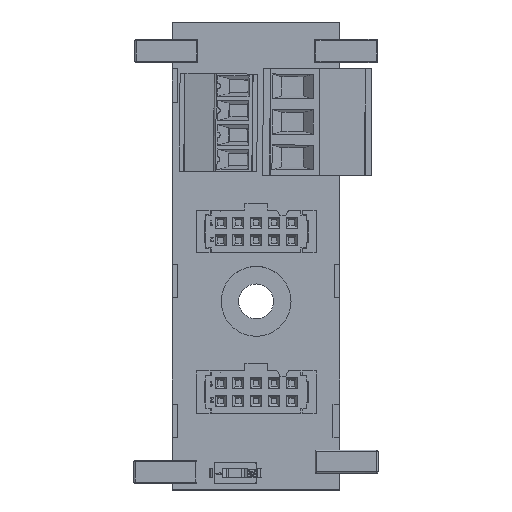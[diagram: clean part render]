
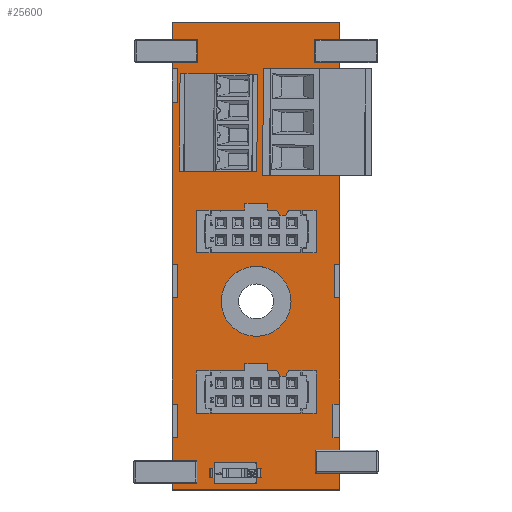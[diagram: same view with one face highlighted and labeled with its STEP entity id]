
A CAD part, top view. The second image highlights one B-rep face of the part: STEP entity #25600.
In plain terms, the highlighted planar face has unit normal (0, 0, 1).
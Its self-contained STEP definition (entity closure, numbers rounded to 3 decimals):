
#668=FACE_BOUND('',#2984,.T.);
#1506=FACE_OUTER_BOUND('',#2983,.T.);
#2983=EDGE_LOOP('',(#20065,#20066,#20067,#20068,#20069,#20070,#20071,#20072,
#20073,#20074,#20075,#20076,#20077,#20078,#20079,#20080,#20081,#20082,#20083,
#20084,#20085,#20086,#20087,#20088,#20089,#20090,#20091,#20092));
#2984=EDGE_LOOP('',(#20093,#20094));
#3766=CIRCLE('',#27207,5.);
#3767=CIRCLE('',#27208,5.);
#5855=LINE('',#38665,#9049);
#5859=LINE('',#38673,#9053);
#5863=LINE('',#38681,#9057);
#5867=LINE('',#38689,#9061);
#5883=LINE('',#38721,#9077);
#5885=LINE('',#38726,#9079);
#5886=LINE('',#38728,#9080);
#5887=LINE('',#38730,#9081);
#5888=LINE('',#38732,#9082);
#5889=LINE('',#38734,#9083);
#5890=LINE('',#38736,#9084);
#5891=LINE('',#38738,#9085);
#5892=LINE('',#38740,#9086);
#5893=LINE('',#38742,#9087);
#5894=LINE('',#38744,#9088);
#5895=LINE('',#38745,#9089);
#5896=LINE('',#38747,#9090);
#5897=LINE('',#38749,#9091);
#5898=LINE('',#38750,#9092);
#5899=LINE('',#38752,#9093);
#5900=LINE('',#38754,#9094);
#5901=LINE('',#38755,#9095);
#5902=LINE('',#38757,#9096);
#5903=LINE('',#38759,#9097);
#5904=LINE('',#38760,#9098);
#5905=LINE('',#38762,#9099);
#5906=LINE('',#38764,#9100);
#5907=LINE('',#38765,#9101);
#9049=VECTOR('',#31399,1.);
#9053=VECTOR('',#31403,1.);
#9057=VECTOR('',#31407,1.);
#9061=VECTOR('',#31411,1.);
#9077=VECTOR('',#31429,1.);
#9079=VECTOR('',#31433,1.);
#9080=VECTOR('',#31434,1.);
#9081=VECTOR('',#31435,1.);
#9082=VECTOR('',#31436,1.);
#9083=VECTOR('',#31437,1.);
#9084=VECTOR('',#31438,1.);
#9085=VECTOR('',#31439,1.);
#9086=VECTOR('',#31440,1.);
#9087=VECTOR('',#31441,1.);
#9088=VECTOR('',#31442,1.);
#9089=VECTOR('',#31443,1.);
#9090=VECTOR('',#31444,1.);
#9091=VECTOR('',#31445,1.);
#9092=VECTOR('',#31446,1.);
#9093=VECTOR('',#31447,1.);
#9094=VECTOR('',#31448,1.);
#9095=VECTOR('',#31449,1.);
#9096=VECTOR('',#31450,1.);
#9097=VECTOR('',#31451,1.);
#9098=VECTOR('',#31452,1.);
#9099=VECTOR('',#31453,1.);
#9100=VECTOR('',#31454,1.);
#9101=VECTOR('',#31455,1.);
#11635=VERTEX_POINT('',#38662);
#11636=VERTEX_POINT('',#38664);
#11639=VERTEX_POINT('',#38670);
#11640=VERTEX_POINT('',#38672);
#11643=VERTEX_POINT('',#38678);
#11644=VERTEX_POINT('',#38680);
#11647=VERTEX_POINT('',#38686);
#11648=VERTEX_POINT('',#38688);
#11663=VERTEX_POINT('',#38719);
#11664=VERTEX_POINT('',#38724);
#11665=VERTEX_POINT('',#38725);
#11666=VERTEX_POINT('',#38727);
#11667=VERTEX_POINT('',#38729);
#11668=VERTEX_POINT('',#38731);
#11669=VERTEX_POINT('',#38733);
#11670=VERTEX_POINT('',#38735);
#11671=VERTEX_POINT('',#38737);
#11672=VERTEX_POINT('',#38739);
#11673=VERTEX_POINT('',#38741);
#11674=VERTEX_POINT('',#38743);
#11675=VERTEX_POINT('',#38746);
#11676=VERTEX_POINT('',#38748);
#11677=VERTEX_POINT('',#38751);
#11678=VERTEX_POINT('',#38753);
#11679=VERTEX_POINT('',#38756);
#11680=VERTEX_POINT('',#38758);
#11681=VERTEX_POINT('',#38761);
#11682=VERTEX_POINT('',#38763);
#11683=VERTEX_POINT('',#38766);
#11684=VERTEX_POINT('',#38767);
#14618=EDGE_CURVE('',#11635,#11636,#5855,.T.);
#14622=EDGE_CURVE('',#11639,#11640,#5859,.T.);
#14626=EDGE_CURVE('',#11643,#11644,#5863,.T.);
#14630=EDGE_CURVE('',#11647,#11648,#5867,.T.);
#14646=EDGE_CURVE('',#11635,#11663,#5883,.T.);
#14648=EDGE_CURVE('',#11664,#11665,#5885,.T.);
#14649=EDGE_CURVE('',#11664,#11666,#5886,.T.);
#14650=EDGE_CURVE('',#11667,#11666,#5887,.T.);
#14651=EDGE_CURVE('',#11667,#11668,#5888,.T.);
#14652=EDGE_CURVE('',#11668,#11669,#5889,.T.);
#14653=EDGE_CURVE('',#11669,#11670,#5890,.T.);
#14654=EDGE_CURVE('',#11671,#11670,#5891,.T.);
#14655=EDGE_CURVE('',#11671,#11672,#5892,.T.);
#14656=EDGE_CURVE('',#11672,#11673,#5893,.T.);
#14657=EDGE_CURVE('',#11673,#11674,#5894,.T.);
#14658=EDGE_CURVE('',#11648,#11674,#5895,.T.);
#14659=EDGE_CURVE('',#11675,#11647,#5896,.T.);
#14660=EDGE_CURVE('',#11676,#11675,#5897,.T.);
#14661=EDGE_CURVE('',#11676,#11644,#5898,.T.);
#14662=EDGE_CURVE('',#11677,#11643,#5899,.T.);
#14663=EDGE_CURVE('',#11678,#11677,#5900,.T.);
#14664=EDGE_CURVE('',#11678,#11640,#5901,.T.);
#14665=EDGE_CURVE('',#11679,#11639,#5902,.T.);
#14666=EDGE_CURVE('',#11680,#11679,#5903,.T.);
#14667=EDGE_CURVE('',#11680,#11636,#5904,.T.);
#14668=EDGE_CURVE('',#11663,#11681,#5905,.T.);
#14669=EDGE_CURVE('',#11681,#11682,#5906,.T.);
#14670=EDGE_CURVE('',#11682,#11665,#5907,.T.);
#14671=EDGE_CURVE('',#11683,#11684,#3766,.T.);
#14672=EDGE_CURVE('',#11684,#11683,#3767,.T.);
#20065=ORIENTED_EDGE('',*,*,#14648,.F.);
#20066=ORIENTED_EDGE('',*,*,#14649,.T.);
#20067=ORIENTED_EDGE('',*,*,#14650,.F.);
#20068=ORIENTED_EDGE('',*,*,#14651,.T.);
#20069=ORIENTED_EDGE('',*,*,#14652,.T.);
#20070=ORIENTED_EDGE('',*,*,#14653,.T.);
#20071=ORIENTED_EDGE('',*,*,#14654,.F.);
#20072=ORIENTED_EDGE('',*,*,#14655,.T.);
#20073=ORIENTED_EDGE('',*,*,#14656,.T.);
#20074=ORIENTED_EDGE('',*,*,#14657,.T.);
#20075=ORIENTED_EDGE('',*,*,#14658,.F.);
#20076=ORIENTED_EDGE('',*,*,#14630,.F.);
#20077=ORIENTED_EDGE('',*,*,#14659,.F.);
#20078=ORIENTED_EDGE('',*,*,#14660,.F.);
#20079=ORIENTED_EDGE('',*,*,#14661,.T.);
#20080=ORIENTED_EDGE('',*,*,#14626,.F.);
#20081=ORIENTED_EDGE('',*,*,#14662,.F.);
#20082=ORIENTED_EDGE('',*,*,#14663,.F.);
#20083=ORIENTED_EDGE('',*,*,#14664,.T.);
#20084=ORIENTED_EDGE('',*,*,#14622,.F.);
#20085=ORIENTED_EDGE('',*,*,#14665,.F.);
#20086=ORIENTED_EDGE('',*,*,#14666,.F.);
#20087=ORIENTED_EDGE('',*,*,#14667,.T.);
#20088=ORIENTED_EDGE('',*,*,#14618,.F.);
#20089=ORIENTED_EDGE('',*,*,#14646,.T.);
#20090=ORIENTED_EDGE('',*,*,#14668,.T.);
#20091=ORIENTED_EDGE('',*,*,#14669,.T.);
#20092=ORIENTED_EDGE('',*,*,#14670,.T.);
#20093=ORIENTED_EDGE('',*,*,#14671,.F.);
#20094=ORIENTED_EDGE('',*,*,#14672,.F.);
#24453=PLANE('',#27206);
#25600=ADVANCED_FACE('',(#1506,#668),#24453,.T.);
#27206=AXIS2_PLACEMENT_3D('',#38723,#31431,#31432);
#27207=AXIS2_PLACEMENT_3D('',#38768,#31456,#31457);
#27208=AXIS2_PLACEMENT_3D('',#38769,#31458,#31459);
#31399=DIRECTION('',(0.,1.,0.));
#31403=DIRECTION('',(0.,1.,0.));
#31407=DIRECTION('',(0.,1.,0.));
#31411=DIRECTION('',(0.,1.,0.));
#31429=DIRECTION('',(1.,0.,0.));
#31431=DIRECTION('center_axis',(0.,0.,1.));
#31432=DIRECTION('ref_axis',(1.,0.,0.));
#31433=DIRECTION('',(-1.,0.,0.));
#31434=DIRECTION('',(0.,1.,0.));
#31435=DIRECTION('',(1.,0.,0.));
#31436=DIRECTION('',(0.,1.,0.));
#31437=DIRECTION('',(1.,0.,0.));
#31438=DIRECTION('',(0.,1.,0.));
#31439=DIRECTION('',(1.,0.,0.));
#31440=DIRECTION('',(0.,1.,0.));
#31441=DIRECTION('',(1.,0.,0.));
#31442=DIRECTION('',(0.,1.,0.));
#31443=DIRECTION('',(1.,0.,0.));
#31444=DIRECTION('',(-1.,0.,0.));
#31445=DIRECTION('',(0.,1.,0.));
#31446=DIRECTION('',(-1.,0.,0.));
#31447=DIRECTION('',(-1.,0.,0.));
#31448=DIRECTION('',(0.,1.,0.));
#31449=DIRECTION('',(-1.,0.,0.));
#31450=DIRECTION('',(-1.,0.,0.));
#31451=DIRECTION('',(0.,1.,0.));
#31452=DIRECTION('',(-1.,0.,0.));
#31453=DIRECTION('',(0.,1.,0.));
#31454=DIRECTION('',(-1.,0.,0.));
#31455=DIRECTION('',(0.,1.,0.));
#31456=DIRECTION('center_axis',(0.,0.,1.));
#31457=DIRECTION('ref_axis',(1.,0.,0.));
#31458=DIRECTION('center_axis',(0.,0.,1.));
#31459=DIRECTION('ref_axis',(1.,0.,0.));
#38662=CARTESIAN_POINT('',(0.,0.,5.6));
#38664=CARTESIAN_POINT('',(0.,7.5,5.6));
#38665=CARTESIAN_POINT('',(0.,0.,5.6));
#38670=CARTESIAN_POINT('',(0.,12.3,5.6));
#38672=CARTESIAN_POINT('',(0.,27.5,5.6));
#38673=CARTESIAN_POINT('',(0.,0.,5.6));
#38678=CARTESIAN_POINT('',(0.,32.3,5.6));
#38680=CARTESIAN_POINT('',(0.,55.5,5.6));
#38681=CARTESIAN_POINT('',(0.,0.,5.6));
#38686=CARTESIAN_POINT('',(0.,60.3,5.6));
#38688=CARTESIAN_POINT('',(0.,67.,5.6));
#38689=CARTESIAN_POINT('',(0.,0.,5.6));
#38719=CARTESIAN_POINT('',(24.,0.,5.6));
#38721=CARTESIAN_POINT('',(0.,0.,5.6));
#38723=CARTESIAN_POINT('Origin',(0.,0.,5.6));
#38724=CARTESIAN_POINT('',(24.,12.3,5.6));
#38725=CARTESIAN_POINT('',(23.,12.3,5.6));
#38726=CARTESIAN_POINT('',(11.5,12.3,5.6));
#38727=CARTESIAN_POINT('',(24.,27.5,5.6));
#38728=CARTESIAN_POINT('',(24.,0.,5.6));
#38729=CARTESIAN_POINT('',(23.2,27.5,5.6));
#38730=CARTESIAN_POINT('',(14.,27.5,5.6));
#38731=CARTESIAN_POINT('',(23.2,32.3,5.6));
#38732=CARTESIAN_POINT('',(23.2,13.75,5.6));
#38733=CARTESIAN_POINT('',(24.,32.3,5.6));
#38734=CARTESIAN_POINT('',(14.,32.3,5.6));
#38735=CARTESIAN_POINT('',(24.,55.5,5.6));
#38736=CARTESIAN_POINT('',(24.,0.,5.6));
#38737=CARTESIAN_POINT('',(23.2,55.5,5.6));
#38738=CARTESIAN_POINT('',(14.,55.5,5.6));
#38739=CARTESIAN_POINT('',(23.2,60.3,5.6));
#38740=CARTESIAN_POINT('',(23.2,27.75,5.6));
#38741=CARTESIAN_POINT('',(24.,60.3,5.6));
#38742=CARTESIAN_POINT('',(14.,60.3,5.6));
#38743=CARTESIAN_POINT('',(24.,67.,5.6));
#38744=CARTESIAN_POINT('',(24.,0.,5.6));
#38745=CARTESIAN_POINT('',(0.,67.,5.6));
#38746=CARTESIAN_POINT('',(0.8,60.3,5.6));
#38747=CARTESIAN_POINT('',(-2.,60.3,5.6));
#38748=CARTESIAN_POINT('',(0.8,55.5,5.6));
#38749=CARTESIAN_POINT('',(0.8,27.75,5.6));
#38750=CARTESIAN_POINT('',(-2.,55.5,5.6));
#38751=CARTESIAN_POINT('',(0.8,32.3,5.6));
#38752=CARTESIAN_POINT('',(-2.,32.3,5.6));
#38753=CARTESIAN_POINT('',(0.8,27.5,5.6));
#38754=CARTESIAN_POINT('',(0.8,13.75,5.6));
#38755=CARTESIAN_POINT('',(-2.,27.5,5.6));
#38756=CARTESIAN_POINT('',(0.8,12.3,5.6));
#38757=CARTESIAN_POINT('',(-2.,12.3,5.6));
#38758=CARTESIAN_POINT('',(0.8,7.5,5.6));
#38759=CARTESIAN_POINT('',(0.8,3.75,5.6));
#38760=CARTESIAN_POINT('',(-2.,7.5,5.6));
#38761=CARTESIAN_POINT('',(24.,7.5,5.6));
#38762=CARTESIAN_POINT('',(24.,0.,5.6));
#38763=CARTESIAN_POINT('',(23.,7.5,5.6));
#38764=CARTESIAN_POINT('',(11.5,7.5,5.6));
#38765=CARTESIAN_POINT('',(23.,3.75,5.6));
#38766=CARTESIAN_POINT('',(17.,27.,5.6));
#38767=CARTESIAN_POINT('',(7.,27.,5.6));
#38768=CARTESIAN_POINT('Origin',(12.,27.,5.6));
#38769=CARTESIAN_POINT('Origin',(12.,27.,5.6));
